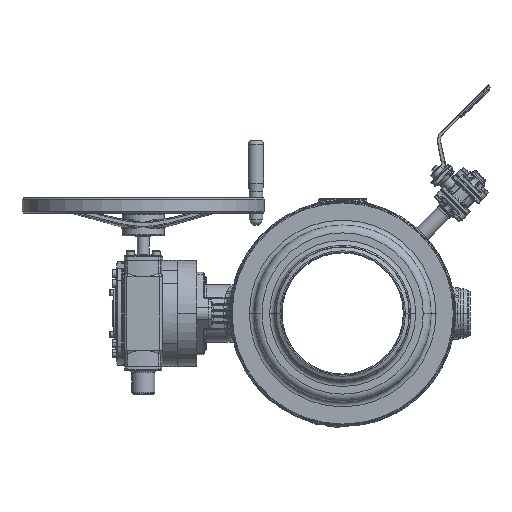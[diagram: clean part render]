
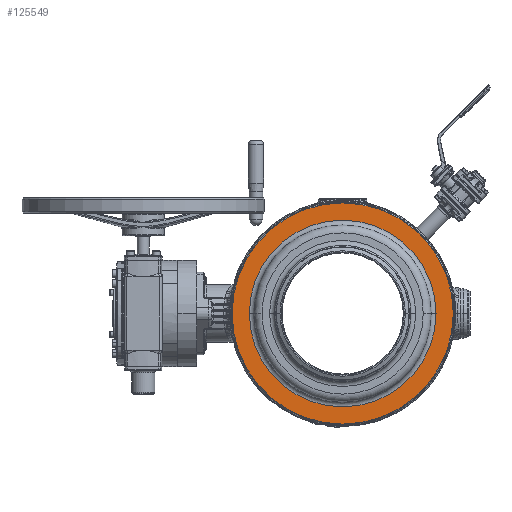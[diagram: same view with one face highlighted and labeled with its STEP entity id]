
A CAD part, left-side view. The second image highlights one B-rep face of the part: STEP entity #125549.
In plain terms, the highlighted planar face has unit normal (-1, 0, 0).
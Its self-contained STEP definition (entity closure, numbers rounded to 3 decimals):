
#27659=CARTESIAN_POINT('',(-119.5,0.,0.));
#27660=DIRECTION('',(-1.,0.,0.));
#27661=DIRECTION('',(0.,0.,1.));
#27662=AXIS2_PLACEMENT_3D('',#27659,#27660,#27661);
#27664=CARTESIAN_POINT('',(-119.5,0.,0.));
#27665=DIRECTION('',(-1.,0.,0.));
#27666=DIRECTION('',(0.,0.,-1.));
#27667=AXIS2_PLACEMENT_3D('',#27664,#27665,#27666);
#27669=CARTESIAN_POINT('',(-119.5,0.,0.));
#27670=DIRECTION('',(1.,0.,0.));
#27671=DIRECTION('',(0.,0.,-1.));
#27672=AXIS2_PLACEMENT_3D('',#27669,#27670,#27671);
#27674=CARTESIAN_POINT('',(-119.5,0.,0.));
#27675=DIRECTION('',(1.,0.,0.));
#27676=DIRECTION('',(0.,0.,1.));
#27677=AXIS2_PLACEMENT_3D('',#27674,#27675,#27676);
#66958=CARTESIAN_POINT('',(-119.5,0.,182.5));
#66960=VERTEX_POINT('',#66958);
#66962=CARTESIAN_POINT('',(-119.5,0.,-182.5));
#66964=VERTEX_POINT('',#66962);
#66970=CARTESIAN_POINT('',(-119.5,0.,-154.));
#66971=CARTESIAN_POINT('',(-119.5,0.,154.));
#66972=VERTEX_POINT('',#66970);
#66973=VERTEX_POINT('',#66971);
#125534=CARTESIAN_POINT('',(-119.5,0.,0.));
#125535=DIRECTION('',(-1.,0.,0.));
#125536=DIRECTION('',(0.,0.,1.));
#125537=AXIS2_PLACEMENT_3D('',#125534,#125535,#125536);
#125538=PLANE('',#125537);
#125540=ORIENTED_EDGE('',*,*,#125539,.F.);
#125542=ORIENTED_EDGE('',*,*,#125541,.F.);
#125543=EDGE_LOOP('',(#125540,#125542));
#125544=FACE_OUTER_BOUND('',#125543,.F.);
#125545=ORIENTED_EDGE('',*,*,#125514,.F.);
#125546=ORIENTED_EDGE('',*,*,#125528,.F.);
#125547=EDGE_LOOP('',(#125545,#125546));
#125548=FACE_BOUND('',#125547,.F.);
#125549=ADVANCED_FACE('',(#125544,#125548),#125538,.T.);
#27663=CIRCLE('',#27662,182.5);
#27668=CIRCLE('',#27667,182.5);
#27673=CIRCLE('',#27672,154.);
#27678=CIRCLE('',#27677,154.);
#125514=EDGE_CURVE('',#66972,#66973,#27673,.T.);
#125528=EDGE_CURVE('',#66973,#66972,#27678,.T.);
#125539=EDGE_CURVE('',#66960,#66964,#27663,.T.);
#125541=EDGE_CURVE('',#66964,#66960,#27668,.T.);
